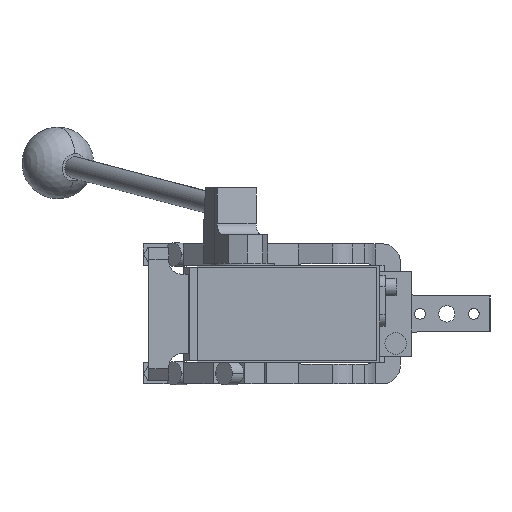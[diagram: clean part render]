
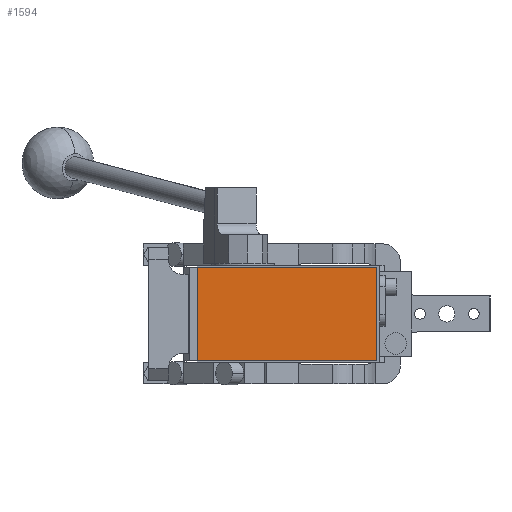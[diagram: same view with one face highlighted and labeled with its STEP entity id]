
A CAD part, front view. The second image highlights one B-rep face of the part: STEP entity #1594.
In plain terms, the highlighted planar face has unit normal (0, -1, 0).
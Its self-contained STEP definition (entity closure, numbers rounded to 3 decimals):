
#448 = AXIS2_PLACEMENT_3D ( 'NONE', #6208, #16183, #870 ) ;
#687 = EDGE_CURVE ( 'NONE', #3874, #6922, #15762, .T. ) ;
#870 = DIRECTION ( 'NONE',  ( 0., 0., -1. ) ) ;
#1165 = CARTESIAN_POINT ( 'NONE',  ( -19., -286.5, 26. ) ) ;
#1594 = ADVANCED_FACE ( 'NONE', ( #3654 ), #2262, .T. ) ;
#1834 = CARTESIAN_POINT ( 'NONE',  ( 81., -286.5, 26. ) ) ;
#2262 = PLANE ( 'NONE',  #448 ) ;
#3051 = ORIENTED_EDGE ( 'NONE', *, *, #6664, .T. ) ;
#3085 = EDGE_LOOP ( 'NONE', ( #5286, #14995, #3051, #9423 ) ) ;
#3140 = CARTESIAN_POINT ( 'NONE',  ( -19., -286.5, -26. ) ) ;
#3387 = DIRECTION ( 'NONE',  ( 0., 0., -1. ) ) ;
#3654 = FACE_OUTER_BOUND ( 'NONE', #3085, .T. ) ;
#3874 = VERTEX_POINT ( 'NONE', #15860 ) ;
#4460 = DIRECTION ( 'NONE',  ( 1., 0., 0. ) ) ;
#5286 = ORIENTED_EDGE ( 'NONE', *, *, #15382, .T. ) ;
#6188 = DIRECTION ( 'NONE',  ( -1., 0., 0. ) ) ;
#6208 = CARTESIAN_POINT ( 'NONE',  ( 0., -286.5, 0. ) ) ;
#6529 = CARTESIAN_POINT ( 'NONE',  ( 81., -286.5, -26. ) ) ;
#6664 = EDGE_CURVE ( 'NONE', #6922, #10522, #8407, .T. ) ;
#6922 = VERTEX_POINT ( 'NONE', #6529 ) ;
#7391 = LINE ( 'NONE', #15997, #8204 ) ;
#8108 = VECTOR ( 'NONE', #4460, 1000. ) ;
#8167 = DIRECTION ( 'NONE',  ( 0., 0., 1. ) ) ;
#8204 = VECTOR ( 'NONE', #3387, 1000. ) ;
#8407 = LINE ( 'NONE', #1834, #8915 ) ;
#8915 = VECTOR ( 'NONE', #8167, 1000. ) ;
#9294 = EDGE_CURVE ( 'NONE', #10522, #13430, #16315, .T. ) ;
#9423 = ORIENTED_EDGE ( 'NONE', *, *, #9294, .T. ) ;
#10522 = VERTEX_POINT ( 'NONE', #13681 ) ;
#13315 = CARTESIAN_POINT ( 'NONE',  ( -19., -286.5, 26. ) ) ;
#13430 = VERTEX_POINT ( 'NONE', #13315 ) ;
#13681 = CARTESIAN_POINT ( 'NONE',  ( 81., -286.5, 26. ) ) ;
#14995 = ORIENTED_EDGE ( 'NONE', *, *, #687, .T. ) ;
#15382 = EDGE_CURVE ( 'NONE', #13430, #3874, #7391, .T. ) ;
#15589 = VECTOR ( 'NONE', #6188, 1000. ) ;
#15762 = LINE ( 'NONE', #3140, #8108 ) ;
#15860 = CARTESIAN_POINT ( 'NONE',  ( -19., -286.5, -26. ) ) ;
#15997 = CARTESIAN_POINT ( 'NONE',  ( -19., -286.5, 26. ) ) ;
#16183 = DIRECTION ( 'NONE',  ( 0., -1., 0. ) ) ;
#16315 = LINE ( 'NONE', #1165, #15589 ) ;
